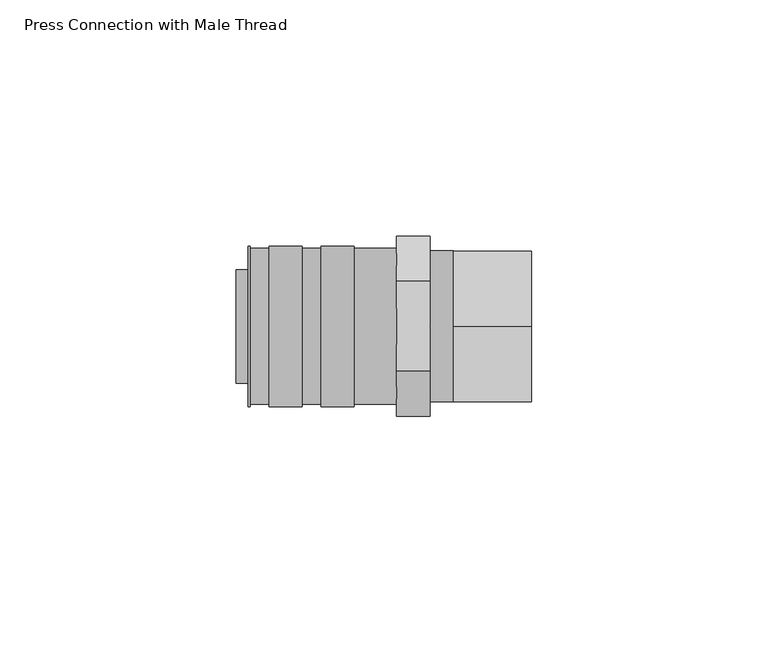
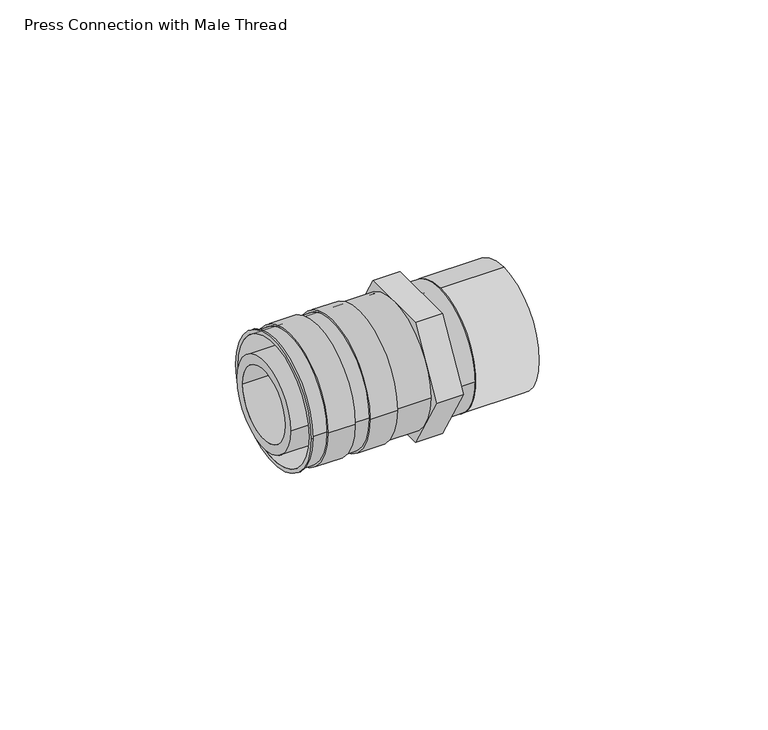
"""IFC4 building model written with IfcOpenShell, lengths in millimetres: pipe fitting geometry."""

from ifc_helpers import new_model, si_unit, point, frame, origin, origin_2d, place, context, project, spatial, polyline, circle_curve, trimmed, segment, composite_curve, outline, extrude, source, transform, mapped, element, save
from ifc_brep_helpers import plane_surface, cylinder_surface, revolved_surface, advanced_brep


def press_connection_with_male_thread_667abdb5(model_context):
    return source(origin(), model_context, "Body", "SolidModel", [
        extrude(outline(composite_curve([segment(trimmed(circle_curve(origin_2d(), 16.0), [point((0.0, -16.0))], [point((0.0, 16.0))], False, "CARTESIAN"), True, "CONTINUOUS"), segment(trimmed(circle_curve(origin_2d(), 16.0), [point((0.0, 16.0))], [point((0.0, -16.0))], False, "CARTESIAN"), True, "CONTINUOUS")], self_intersect=False), holes=[composite_curve([segment(trimmed(circle_curve(origin_2d(), 12.5), [point((0.0, -12.5))], [point((0.0, 12.5))], True, "CARTESIAN"), True, "CONTINUOUS"), segment(trimmed(circle_curve(origin_2d(), 12.5), [point((0.0, 12.5))], [point((0.0, -12.5))], True, "CARTESIAN"), True, "CONTINUOUS")], self_intersect=False)]), frame((46.0, 0.0, 0.0), z_axis=(1.0, 0.0, 0.0), x_axis=(0.0, 1.0, 0.0)), (0.0, 0.0, 1.0), 16.5),
        advanced_brep(
        [(2.5, 17.0, 0.0), (2.5, -17.0, 0.0), (2.5, 16.0, 0.0), (2.5, -16.0, 0.0), (34.0, -16.5, 0.0), (34.0, 16.5, 0.0), (34.0, 16.0, 0.0), (34.0, -16.0, 0.0), (3.0, 17.0, 0.0), (3.0, -17.0, 0.0), (25.0, 17.0, 0.0), (25.0, -17.0, 0.0), (18.0, -17.0, 0.0), (18.0, 17.0, 0.0), (14.0, 17.0, 0.0), (14.0, -17.0, 0.0), (7.0, -17.0, 0.0), (7.0, 17.0, 0.0), (25.0, 16.5, 0.0), (25.0, -16.5, 0.0), (18.0, -16.5, 0.0), (18.0, 16.5, 0.0), (14.0, 16.5, 0.0), (14.0, -16.5, 0.0), (7.0, -16.5, 0.0), (7.0, 16.5, 0.0), (3.0, 16.5, 0.0), (3.0, -16.5, 0.0)],
        [
            (0, 1, circle_curve(frame((2.5, 0.0, 0.0), z_axis=(-1.0, 0.0, 0.0), x_axis=(0.0, -1.0, 0.0)), 17.0)),
            (1, 0, circle_curve(frame((2.5, 0.0, 0.0), z_axis=(-1.0, 0.0, 0.0), x_axis=(0.0, -1.0, 0.0)), 17.0)),
            (2, 3, circle_curve(frame((2.5, 0.0, 0.0), z_axis=(1.0, 0.0, 0.0), x_axis=(0.0, -1.0, 0.0)), 16.0)),
            (3, 2, circle_curve(frame((2.5, 0.0, 0.0), z_axis=(1.0, 0.0, 0.0), x_axis=(0.0, -1.0, 0.0)), 16.0)),
            (4, 5, circle_curve(frame((34.0, 0.0, 0.0), z_axis=(1.0, 0.0, 0.0), x_axis=(0.0, 1.0, 0.0)), 16.5)),
            (5, 4, circle_curve(frame((34.0, 0.0, 0.0), z_axis=(1.0, 0.0, 0.0), x_axis=(0.0, 1.0, 0.0)), 16.5)),
            (6, 7, circle_curve(frame((34.0, 0.0, 0.0), z_axis=(-1.0, 0.0, 0.0), x_axis=(0.0, -1.0, 0.0)), 16.0)),
            (7, 6, circle_curve(frame((34.0, 0.0, 0.0), z_axis=(-1.0, 0.0, 0.0), x_axis=(0.0, -1.0, 0.0)), 16.0)),
            (0, 8),
            (8, 9, circle_curve(frame((3.0, 0.0, 0.0), z_axis=(-1.0, 0.0, 0.0), x_axis=(0.0, -1.0, 0.0)), 17.0)),
            (9, 1),
            (10, 11, circle_curve(frame((25.0, 0.0, 0.0), z_axis=(-1.0, 0.0, 0.0), x_axis=(0.0, -1.0, 0.0)), 17.0)),
            (11, 12),
            (12, 13, circle_curve(frame((18.0, 0.0, 0.0), z_axis=(1.0, 0.0, 0.0), x_axis=(0.0, -1.0, 0.0)), 17.0)),
            (13, 10),
            (14, 15, circle_curve(frame((14.0, 0.0, 0.0), z_axis=(-1.0, 0.0, 0.0), x_axis=(0.0, -1.0, 0.0)), 17.0)),
            (15, 16),
            (16, 17, circle_curve(frame((7.0, 0.0, 0.0), z_axis=(1.0, 0.0, 0.0), x_axis=(0.0, -1.0, 0.0)), 17.0)),
            (17, 14),
            (9, 8, circle_curve(frame((3.0, 0.0, 0.0), z_axis=(-1.0, 0.0, 0.0), x_axis=(0.0, -1.0, 0.0)), 17.0)),
            (11, 10, circle_curve(frame((25.0, 0.0, 0.0), z_axis=(-1.0, 0.0, 0.0), x_axis=(0.0, -1.0, 0.0)), 17.0)),
            (13, 12, circle_curve(frame((18.0, 0.0, 0.0), z_axis=(1.0, 0.0, 0.0), x_axis=(0.0, -1.0, 0.0)), 17.0)),
            (15, 14, circle_curve(frame((14.0, 0.0, 0.0), z_axis=(-1.0, 0.0, 0.0), x_axis=(0.0, -1.0, 0.0)), 17.0)),
            (17, 16, circle_curve(frame((7.0, 0.0, 0.0), z_axis=(1.0, 0.0, 0.0), x_axis=(0.0, -1.0, 0.0)), 17.0)),
            (2, 6),
            (7, 3),
            (18, 19, circle_curve(frame((25.0, 0.0, 0.0), z_axis=(-1.0, 0.0, 0.0), x_axis=(0.0, 1.0, 0.0)), 16.5)),
            (19, 11),
            (10, 18),
            (19, 18, circle_curve(frame((25.0, 0.0, 0.0), z_axis=(-1.0, 0.0, 0.0), x_axis=(0.0, 1.0, 0.0)), 16.5)),
            (18, 5),
            (4, 19),
            (20, 21, circle_curve(frame((18.0, 0.0, 0.0), z_axis=(1.0, 0.0, 0.0), x_axis=(0.0, 1.0, 0.0)), 16.5)),
            (21, 13),
            (12, 20),
            (21, 20, circle_curve(frame((18.0, 0.0, 0.0), z_axis=(1.0, 0.0, 0.0), x_axis=(0.0, 1.0, 0.0)), 16.5)),
            (22, 23, circle_curve(frame((14.0, 0.0, 0.0), z_axis=(-1.0, 0.0, 0.0), x_axis=(0.0, 1.0, 0.0)), 16.5)),
            (23, 15),
            (14, 22),
            (23, 22, circle_curve(frame((14.0, 0.0, 0.0), z_axis=(-1.0, 0.0, 0.0), x_axis=(0.0, 1.0, 0.0)), 16.5)),
            (20, 23),
            (22, 21),
            (24, 25, circle_curve(frame((7.0, 0.0, 0.0), z_axis=(1.0, 0.0, 0.0), x_axis=(0.0, 1.0, 0.0)), 16.5)),
            (25, 17),
            (16, 24),
            (25, 24, circle_curve(frame((7.0, 0.0, 0.0), z_axis=(1.0, 0.0, 0.0), x_axis=(0.0, 1.0, 0.0)), 16.5)),
            (26, 27, circle_curve(frame((3.0, 0.0, 0.0), z_axis=(-1.0, 0.0, 0.0), x_axis=(0.0, 1.0, 0.0)), 16.5)),
            (27, 9),
            (8, 26),
            (27, 26, circle_curve(frame((3.0, 0.0, 0.0), z_axis=(-1.0, 0.0, 0.0), x_axis=(0.0, 1.0, 0.0)), 16.5)),
            (24, 27),
            (26, 25),
        ],
        [
            plane_surface(frame((2.5, -17.0, 0.0), z_axis=(-1.0, 0.0, 0.0), x_axis=(0.0, 0.0, 1.0))),
            plane_surface(frame((34.0, -17.0, 0.0), z_axis=(1.0, 0.0, 0.0), x_axis=(0.0, 0.0, -1.0))),
            cylinder_surface(frame((34.0, 0.0, 0.0), z_axis=(-1.0, 0.0, 0.0), x_axis=(0.0, -1.0, 0.0)), 17.0),
            revolved_surface(polyline([(34.0, -16.0, 0.0), (2.5, -16.0, 0.0)]), (34.0, 0.0, 0.0), (1.0, 0.0, 0.0)),
            plane_surface(frame((25.0, 0.0, 0.0), z_axis=(1.0, 0.0, 0.0), x_axis=(0.0, 1.0, 0.0))),
            cylinder_surface(frame((2000.5, 0.0, 0.0), z_axis=(-1.0, 0.0, 0.0), x_axis=(0.0, 1.0, 0.0)), 16.5),
            plane_surface(frame((18.0, 0.0, 0.0), z_axis=(-1.0, 0.0, 0.0), x_axis=(0.0, 1.0, 0.0))),
            plane_surface(frame((14.0, 0.0, 0.0), z_axis=(1.0, 0.0, 0.0), x_axis=(0.0, 1.0, 0.0))),
            plane_surface(frame((7.0, 0.0, 0.0), z_axis=(-1.0, 0.0, 0.0), x_axis=(0.0, 1.0, 0.0))),
            plane_surface(frame((3.0, 0.0, 0.0), z_axis=(1.0, 0.0, 0.0), x_axis=(0.0, 1.0, 0.0))),
        ],
        [
            (0, [[1, 2], [3, 4]]),
            (1, [[5, 6], [7, 8]]),
            (2, [[-1, 9, 10, 11]]),
            (2, [[12, 13, 14, 15]]),
            (2, [[16, 17, 18, 19]]),
            (2, [[-2, -11, 20, -9]]),
            (2, [[21, -15, 22, -13]]),
            (2, [[23, -19, 24, -17]]),
            (3, [[-3, 25, -8, 26]]),
            (3, [[-4, -26, -7, -25]]),
            (4, [[27, 28, -12, 29]]),
            (4, [[30, -29, -21, -28]]),
            (5, [[-27, 31, -5, 32]]),
            (5, [[-30, -32, -6, -31]]),
            (6, [[33, 34, -14, 35]]),
            (6, [[36, -35, -22, -34]]),
            (7, [[37, 38, -16, 39]]),
            (7, [[40, -39, -23, -38]]),
            (5, [[-33, 41, -37, 42]]),
            (5, [[-36, -42, -40, -41]]),
            (8, [[43, 44, -18, 45]]),
            (8, [[46, -45, -24, -44]]),
            (9, [[47, 48, -10, 49]]),
            (9, [[50, -49, -20, -48]]),
            (5, [[-43, 51, -47, 52]]),
            (5, [[-46, -52, -50, -51]]),
        ],
    ),
        extrude(outline(composite_curve([segment(trimmed(circle_curve(origin_2d(), 16.0), [point((-16.0, 0.0))], [point((16.0, 0.0))], False, "CARTESIAN"), True, "CONTINUOUS"), segment(trimmed(circle_curve(origin_2d(), 16.0), [point((16.0, 0.0))], [point((-16.0, 0.0))], False, "CARTESIAN"), True, "CONTINUOUS")], self_intersect=False), holes=[composite_curve([segment(trimmed(circle_curve(origin_2d(), 12.5), [point((-12.5, 0.0))], [point((12.5, 0.0))], True, "CARTESIAN"), True, "CONTINUOUS"), segment(trimmed(circle_curve(origin_2d(), 12.5), [point((12.5, 0.0))], [point((-12.5, 0.0))], True, "CARTESIAN"), True, "CONTINUOUS")], self_intersect=False)]), frame((41.0, 0.0, 0.0), z_axis=(1.0, 0.0, 0.0), x_axis=(0.0, 1.0, 0.0)), (0.0, 0.0, 1.0), 5.0),
        extrude(outline(polyline([(-19.0525589, 0.0), (-9.5262794, 16.5), (9.5262794, 16.5), (19.0525589, 0.0), (9.5262794, -16.5), (-9.5262794, -16.5), (-19.0525589, 0.0)]), holes=[composite_curve([segment(trimmed(circle_curve(origin_2d(), 9.5), [point((9.5, 0.0))], [point((-9.5, 0.0))], True, "CARTESIAN"), True, "CONTINUOUS"), segment(trimmed(circle_curve(origin_2d(), 9.5), [point((-9.5, 0.0))], [point((9.5, 0.0))], True, "CARTESIAN"), True, "CONTINUOUS")], self_intersect=False)]), frame((34.0, 0.0, 0.0), z_axis=(1.0, 0.0, 0.0), x_axis=(0.0, 1.0, 0.0)), (0.0, 0.0, 1.0), 7.0),
        extrude(outline(composite_curve([segment(trimmed(circle_curve(origin_2d(), 12.0), [point((-12.0, 0.0))], [point((12.0, 0.0))], False, "CARTESIAN"), True, "CONTINUOUS"), segment(trimmed(circle_curve(origin_2d(), 12.0), [point((12.0, 0.0))], [point((-12.0, 0.0))], False, "CARTESIAN"), True, "CONTINUOUS")], self_intersect=False), holes=[composite_curve([segment(trimmed(circle_curve(origin_2d(), 9.5), [point((9.5, 0.0))], [point((-9.5, 0.0))], True, "CARTESIAN"), True, "CONTINUOUS"), segment(trimmed(circle_curve(origin_2d(), 9.5), [point((-9.5, 0.0))], [point((9.5, 0.0))], True, "CARTESIAN"), True, "CONTINUOUS")], self_intersect=False)]), frame((0.0, 0.0, 0.0), z_axis=(1.0, 0.0, 0.0), x_axis=(0.0, 1.0, 0.0)), (0.0, 0.0, 1.0), 34.0),
    ])


if __name__ == "__main__":
    model = new_model("IFC4")
    model_context = context("Model", 3, world=origin())
    ifc_project = project(units=[si_unit("LENGTHUNIT", "METRE", prefix="MILLI")], contexts=[model_context])
    site = spatial("IfcSite", under=ifc_project)
    building = spatial("IfcBuilding", under=site)
    placement = place(None, origin())
    press_connection_with_male_thread_shape = press_connection_with_male_thread_667abdb5(model_context)
    element("IfcPipeFitting", 1, ObjectType="Press Connection with Male Thread : Superpipe Press Connection - 32x1\" MT", at=placement, inside=building, context=model_context, shape_type="MappedRepresentation", body=[
        mapped(press_connection_with_male_thread_shape, transform((0.0, 0.0, 0.0), x_axis=(1.0, 0.0, 0.0), y_axis=(0.0, 1.0, 0.0), z_axis=(0.0, 0.0, 1.0))),
    ])
    save(model, "model.ifc")
